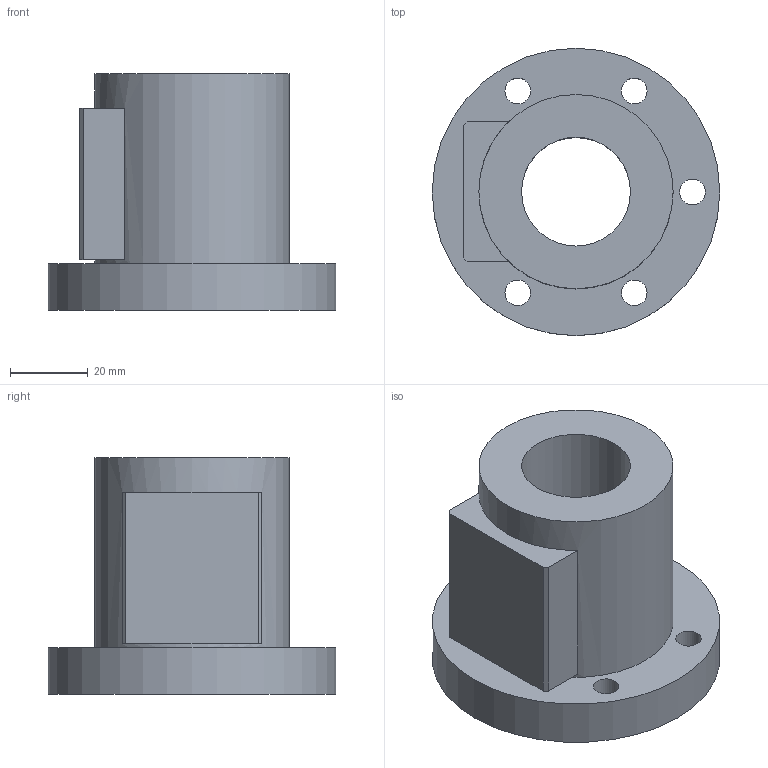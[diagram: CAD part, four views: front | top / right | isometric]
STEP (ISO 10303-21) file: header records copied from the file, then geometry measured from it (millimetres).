
FILE_DESCRIPTION(/* description */ (''),/* implementation_level */ '2;1');
FILE_NAME(/* name */ '28-6B2',/* time_stamp */ '2006-07-31T10:00:26+08:00',/* author */ (''),/* organization */ (''),/* preprocessor_version */ 'ST-DEVELOPER v9',/* originating_system */ 'UGS - NX 4.0',/* authorisation */ '');
FILE_SCHEMA (('CONFIG_CONTROL_DESIGN'));
Length unit declared in the file: millimetre
Products named in the file (1): 28-6B2
Bounding box: 74 x 74 x 61 mm (x, y, z)
Volume: 115136.1 mm3; surface area: 25730.2 mm2
Topology: 1 solids, 1 shells, 28 faces, 61 edges, 42 vertices
Faces by surface type: plane 15, cylinder 13
Full cylindrical faces by diameter (mm): 6.6 x5, 11 x5, 28 x1, 50 x1, 74 x1
Entity records: 794 total; most frequent: DIRECTION 130, CARTESIAN_POINT 111, ORIENTED_EDGE 88, EDGE_LOOP 60, AXIS2_PLACEMENT_3D 57, FACE_BOUND 45, EDGE_CURVE 44, VERTEX_POINT 38
